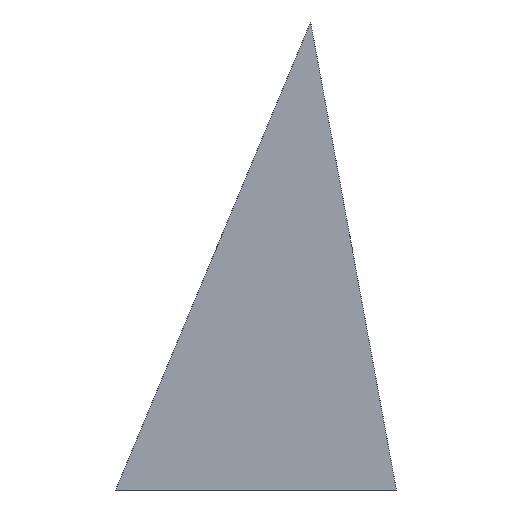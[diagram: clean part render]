
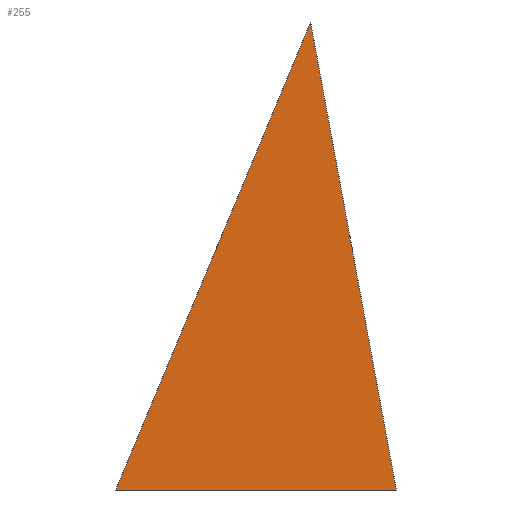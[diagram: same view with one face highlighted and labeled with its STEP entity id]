
A CAD part, left-side view. The second image highlights one B-rep face of the part: STEP entity #255.
In plain terms, the highlighted planar face has unit normal (-1, 0, 0).
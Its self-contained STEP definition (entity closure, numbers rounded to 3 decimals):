
#22 = VERTEX_POINT('',#23);
#23 = CARTESIAN_POINT('',(-6.,-36.,-60.));
#32 = PLANE('',#33);
#33 = AXIS2_PLACEMENT_3D('',#34,#35,#36);
#34 = CARTESIAN_POINT('',(-6.,-36.,-60.));
#35 = DIRECTION('',(0.,0.,1.));
#36 = DIRECTION('',(0.,1.,0.));
#44 = PLANE('',#45);
#45 = AXIS2_PLACEMENT_3D('',#46,#47,#48);
#46 = CARTESIAN_POINT('',(-6.,-14.,60.));
#47 = DIRECTION('',(0.,0.984,-0.18));
#48 = DIRECTION('',(0.,-0.18,-0.984));
#85 = VERTEX_POINT('',#86);
#86 = CARTESIAN_POINT('',(-6.,36.,-60.));
#100 = PLANE('',#101);
#101 = AXIS2_PLACEMENT_3D('',#102,#103,#104);
#102 = CARTESIAN_POINT('',(-6.,36.,-60.));
#103 = DIRECTION('',(0.,-0.923,-0.385));
#104 = DIRECTION('',(0.,-0.385,0.923));
#112 = EDGE_CURVE('',#22,#85,#113,.T.);
#113 = SURFACE_CURVE('',#114,(#118,#125),.PCURVE_S1.);
#114 = LINE('',#115,#116);
#115 = CARTESIAN_POINT('',(-6.,-36.,-60.));
#116 = VECTOR('',#117,1.);
#117 = DIRECTION('',(0.,1.,0.));
#118 = PCURVE('',#32,#119);
#119 = DEFINITIONAL_REPRESENTATION('',(#120),#124);
#120 = LINE('',#121,#122);
#121 = CARTESIAN_POINT('',(0.,0.));
#122 = VECTOR('',#123,1.);
#123 = DIRECTION('',(1.,0.));
#124 = ( GEOMETRIC_REPRESENTATION_CONTEXT(2) 
PARAMETRIC_REPRESENTATION_CONTEXT() REPRESENTATION_CONTEXT('2D SPACE',''
  ) );
#125 = PCURVE('',#126,#131);
#126 = PLANE('',#127);
#127 = AXIS2_PLACEMENT_3D('',#128,#129,#130);
#128 = CARTESIAN_POINT('',(-6.,-5.,-13.333));
#129 = DIRECTION('',(1.,0.,0.));
#130 = DIRECTION('',(-0.,0.,1.));
#131 = DEFINITIONAL_REPRESENTATION('',(#132),#136);
#132 = LINE('',#133,#134);
#133 = CARTESIAN_POINT('',(-46.667,31.));
#134 = VECTOR('',#135,1.);
#135 = DIRECTION('',(0.,-1.));
#136 = ( GEOMETRIC_REPRESENTATION_CONTEXT(2) 
PARAMETRIC_REPRESENTATION_CONTEXT() REPRESENTATION_CONTEXT('2D SPACE',''
  ) );
#166 = VERTEX_POINT('',#167);
#167 = CARTESIAN_POINT('',(-6.,-14.,60.));
#188 = EDGE_CURVE('',#85,#166,#189,.T.);
#189 = SURFACE_CURVE('',#190,(#194,#201),.PCURVE_S1.);
#190 = LINE('',#191,#192);
#191 = CARTESIAN_POINT('',(-6.,36.,-60.));
#192 = VECTOR('',#193,1.);
#193 = DIRECTION('',(0.,-0.385,0.923));
#194 = PCURVE('',#100,#195);
#195 = DEFINITIONAL_REPRESENTATION('',(#196),#200);
#196 = LINE('',#197,#198);
#197 = CARTESIAN_POINT('',(0.,0.));
#198 = VECTOR('',#199,1.);
#199 = DIRECTION('',(1.,0.));
#200 = ( GEOMETRIC_REPRESENTATION_CONTEXT(2) 
PARAMETRIC_REPRESENTATION_CONTEXT() REPRESENTATION_CONTEXT('2D SPACE',''
  ) );
#201 = PCURVE('',#126,#202);
#202 = DEFINITIONAL_REPRESENTATION('',(#203),#207);
#203 = LINE('',#204,#205);
#204 = CARTESIAN_POINT('',(-46.667,-41.));
#205 = VECTOR('',#206,1.);
#206 = DIRECTION('',(0.923,0.385));
#207 = ( GEOMETRIC_REPRESENTATION_CONTEXT(2) 
PARAMETRIC_REPRESENTATION_CONTEXT() REPRESENTATION_CONTEXT('2D SPACE',''
  ) );
#235 = EDGE_CURVE('',#166,#22,#236,.T.);
#236 = SURFACE_CURVE('',#237,(#241,#248),.PCURVE_S1.);
#237 = LINE('',#238,#239);
#238 = CARTESIAN_POINT('',(-6.,-14.,60.));
#239 = VECTOR('',#240,1.);
#240 = DIRECTION('',(0.,-0.18,-0.984));
#241 = PCURVE('',#44,#242);
#242 = DEFINITIONAL_REPRESENTATION('',(#243),#247);
#243 = LINE('',#244,#245);
#244 = CARTESIAN_POINT('',(0.,0.));
#245 = VECTOR('',#246,1.);
#246 = DIRECTION('',(1.,0.));
#247 = ( GEOMETRIC_REPRESENTATION_CONTEXT(2) 
PARAMETRIC_REPRESENTATION_CONTEXT() REPRESENTATION_CONTEXT('2D SPACE',''
  ) );
#248 = PCURVE('',#126,#249);
#249 = DEFINITIONAL_REPRESENTATION('',(#250),#254);
#250 = LINE('',#251,#252);
#251 = CARTESIAN_POINT('',(73.333,9.));
#252 = VECTOR('',#253,1.);
#253 = DIRECTION('',(-0.984,0.18));
#254 = ( GEOMETRIC_REPRESENTATION_CONTEXT(2) 
PARAMETRIC_REPRESENTATION_CONTEXT() REPRESENTATION_CONTEXT('2D SPACE',''
  ) );
#255 = ADVANCED_FACE('',(#256),#126,.F.);
#256 = FACE_BOUND('',#257,.F.);
#257 = EDGE_LOOP('',(#258,#259,#260));
#258 = ORIENTED_EDGE('',*,*,#112,.T.);
#259 = ORIENTED_EDGE('',*,*,#188,.T.);
#260 = ORIENTED_EDGE('',*,*,#235,.T.);
